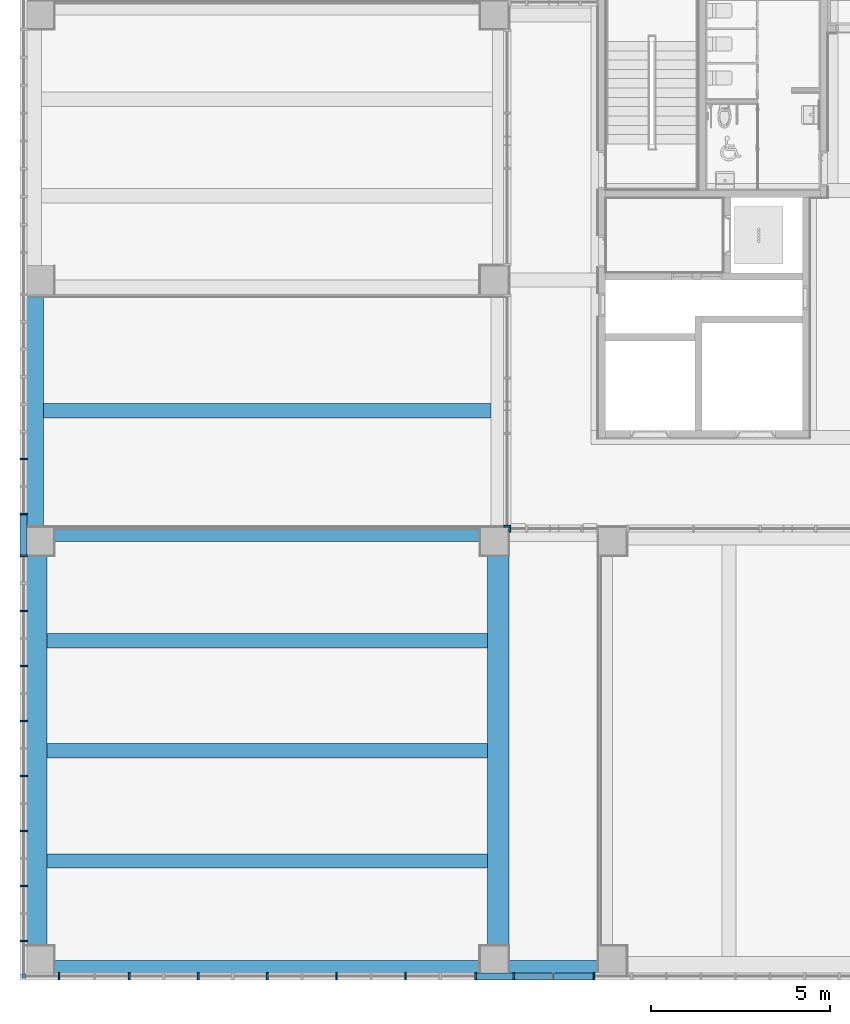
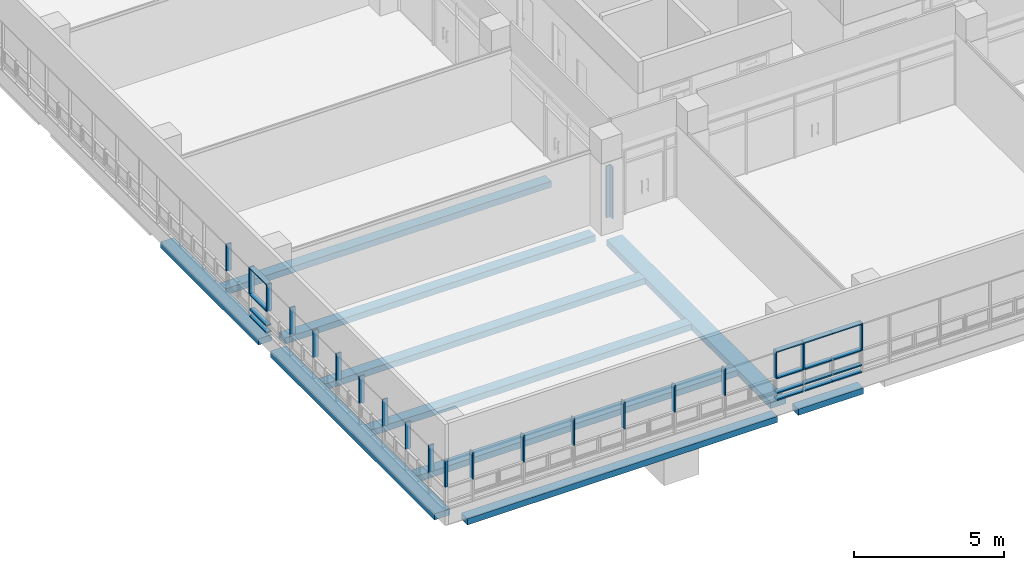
# One storey, part 2 of 82: 38 members, 10 beams, 4 elements without a shape of their own.
"""IFC2X3 building model written with IfcOpenShell, lengths in millimetres."""

from ifc_helpers import new_model, entity, si_unit, converted_unit, derived_unit, direction, frame, frame_2d, origin, origin_2d_with_axis, place, context, subcontext, project, spatial, rectangle, extrude, source, transform, mapped, material, type_object, type_shapes, element, aggregate, save


model = new_model("IFC2X3")

# Units and contexts
model_context = context("Model", 3, precision=0.01, world=origin(), true_north=direction((6.123031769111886e-17, 1.0)))
body_context = subcontext(model_context, "Body", "Model", "MODEL_VIEW")
ifc_project = project(units=[si_unit("LENGTHUNIT", "METRE", prefix="MILLI"), si_unit("AREAUNIT", "SQUARE_METRE"), si_unit("VOLUMEUNIT", "CUBIC_METRE"), converted_unit("PLANEANGLEUNIT", "DEGREE", entity("IfcRatioMeasure", 0.017453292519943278), si_unit("PLANEANGLEUNIT", "RADIAN"), dimensions=[0, 0, 0, 0, 0, 0, 0]), si_unit("MASSUNIT", "GRAM", prefix="KILO"), derived_unit("MASSDENSITYUNIT", [(si_unit("MASSUNIT", "GRAM", prefix="KILO"), 1), (si_unit("LENGTHUNIT", "METRE"), -3)]), derived_unit("MOMENTOFINERTIAUNIT", [(si_unit("LENGTHUNIT", "METRE"), 4)]), si_unit("TIMEUNIT", "SECOND"), si_unit("FREQUENCYUNIT", "HERTZ"), si_unit("THERMODYNAMICTEMPERATUREUNIT", "DEGREE_CELSIUS"), derived_unit("THERMALTRANSMITTANCEUNIT", [(si_unit("MASSUNIT", "GRAM", prefix="KILO"), 1), (si_unit("THERMODYNAMICTEMPERATUREUNIT", "KELVIN"), -1), (si_unit("TIMEUNIT", "SECOND"), -3)]), derived_unit("VOLUMETRICFLOWRATEUNIT", [(si_unit("LENGTHUNIT", "METRE"), 3), (si_unit("TIMEUNIT", "SECOND"), -1)]), derived_unit("MASSFLOWRATEUNIT", [(si_unit("MASSUNIT", "GRAM", prefix="KILO"), 1), (si_unit("TIMEUNIT", "SECOND"), -1)]), derived_unit("ROTATIONALFREQUENCYUNIT", [(si_unit("TIMEUNIT", "SECOND"), -1)]), si_unit("ELECTRICCURRENTUNIT", "AMPERE"), si_unit("ELECTRICVOLTAGEUNIT", "VOLT"), si_unit("POWERUNIT", "WATT"), si_unit("FORCEUNIT", "NEWTON", prefix="KILO"), si_unit("ILLUMINANCEUNIT", "LUX"), si_unit("LUMINOUSFLUXUNIT", "LUMEN"), si_unit("LUMINOUSINTENSITYUNIT", "CANDELA"), derived_unit("USERDEFINED", [(si_unit("MASSUNIT", "GRAM", prefix="KILO"), -1), (si_unit("LENGTHUNIT", "METRE"), -2), (si_unit("TIMEUNIT", "SECOND"), 3), (si_unit("LUMINOUSFLUXUNIT", "LUMEN"), 1)]), derived_unit("SOUNDPOWERUNIT", [(si_unit("MASSUNIT", "GRAM", prefix="KILO"), 1), (si_unit("LENGTHUNIT", "METRE"), 2), (si_unit("TIMEUNIT", "SECOND"), -3)]), derived_unit("SOUNDPRESSUREUNIT", [(si_unit("MASSUNIT", "GRAM", prefix="KILO"), 1), (si_unit("LENGTHUNIT", "METRE"), -1), (si_unit("TIMEUNIT", "SECOND"), -2)]), derived_unit("LINEARVELOCITYUNIT", [(si_unit("LENGTHUNIT", "METRE"), 1), (si_unit("TIMEUNIT", "SECOND"), -1)]), si_unit("PRESSUREUNIT", "PASCAL"), derived_unit("USERDEFINED", [(si_unit("LENGTHUNIT", "METRE"), -2), (si_unit("MASSUNIT", "GRAM", prefix="KILO"), 1), (si_unit("TIMEUNIT", "SECOND"), -2)]), derived_unit("LINEARFORCEUNIT", [(si_unit("MASSUNIT", "GRAM", prefix="KILO"), 1), (si_unit("LENGTHUNIT", "METRE"), 1), (si_unit("TIMEUNIT", "SECOND"), -2), (si_unit("LENGTHUNIT", "METRE"), -1)]), derived_unit("PLANARFORCEUNIT", [(si_unit("MASSUNIT", "GRAM", prefix="KILO"), 1), (si_unit("LENGTHUNIT", "METRE"), 1), (si_unit("TIMEUNIT", "SECOND"), -2), (si_unit("LENGTHUNIT", "METRE"), -2)])], contexts=[model_context])

# Site, building, storey
site_placement = place(None, frame((-14167.972527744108, -657.2125860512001, 0.0)))
site = spatial("IfcSite", under=ifc_project, at=site_placement, Name="Default", CompositionType="ELEMENT")
building_placement = place(site_placement, origin())
building = spatial("IfcBuilding", under=site, at=building_placement, Name="Sample Building", CompositionType="ELEMENT")
storey_placement = place(building_placement, frame((0.0, 0.0, 17500.0)))
storey = spatial("IfcBuildingStorey", under=building, at=storey_placement, Name="지상 5층", CompositionType="ELEMENT", Elevation=17500.00000000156)

# Curtain wall, member
curtain_wall_type = type_object("IfcCurtainWallType", Name="커튼월:CW112-스테인리스 스틸 커튼월", PredefinedType="NOTDEFINED")
curtain_wall_1_placement = place(storey_placement, frame((0.0, 0.0, -17500.0)))
curtain_wall_1 = element("IfcCurtainWall", 1, at=curtain_wall_1_placement, inside=storey, type_object=curtain_wall_type, Name="커튼월:CW112-스테인리스 스틸 커튼월", ObjectType="커튼월:CW112-스테인리스 스틸 커튼월")
ifc_material_1 = material(Name="<Unnamed>")
member_type_1 = type_object("IfcMemberType", Name="직사각형 멀리언:CW200-직사각형 멀리언 50x200mm", PredefinedType="MULLION", material=ifc_material_1)
shared_shape_1 = source(origin(), body_context, "Body", "SweptSolid", [
    extrude(rectangle(XDim=200.0, YDim=50.0, at=origin_2d_with_axis()), frame((-25.0, 0.0, -2100.0), z_axis=(0.0, 0.0, 1.0), x_axis=(0.0, -1.0, 0.0)), (0.0, 0.0, 1.0), 2100.0),
])
type_shapes(member_type_1, [shared_shape_1])
member_1_placement = place(curtain_wall_1_placement, frame((27522.920421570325, 13057.21230798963, 17580.0), z_axis=(0.0, 0.0, -1.0), x_axis=(0.0, -1.0, 0.0)))
member_1 = element("IfcMember", 2, at=member_1_placement, type_object=member_type_1, material=ifc_material_1, Name="직사각형 멀리언:CW200-직사각형 멀리언 50x200mm", ObjectType="직사각형 멀리언:CW200-직사각형 멀리언 50x200mm", context=body_context, shape_type="MappedRepresentation", body=[
    mapped(shared_shape_1, transform((0.0, 0.0, 0.0), scale=1.0)),
])
aggregate(curtain_wall_1, [member_1])

# Curtain wall, members
curtain_wall_2_placement = place(storey_placement, frame((0.0, 0.0, -17500.0)))
curtain_wall_2 = element("IfcCurtainWall", 3, at=curtain_wall_2_placement, inside=storey, type_object=curtain_wall_type, Name="커튼월:CW112-스테인리스 스틸 커튼월", ObjectType="커튼월:CW112-스테인리스 스틸 커튼월")
member_type_2 = type_object("IfcMemberType", Name="직사각형 멀리언:CW200-직사각형 멀리언 50x200mm", PredefinedType="MULLION", material=ifc_material_1)
shared_shape_2 = source(origin(), body_context, "Body", "SweptSolid", [
    extrude(rectangle(XDim=200.0, YDim=50.0, at=origin_2d_with_axis()), frame((-25.0, 0.0, -1120.0), z_axis=(0.0, 0.0, 1.0), x_axis=(0.0, -1.0, 0.0)), (0.0, 0.0, 1.0), 1120.0000000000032),
])
type_shapes(member_type_2, [shared_shape_2])
member_2_placement = place(curtain_wall_2_placement, frame((14017.339654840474, 12276.817707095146, 20100.0), z_axis=(0.0, -1.0, 0.0), x_axis=(0.0, 0.0, 1.0)))
member_2 = element("IfcMember", 4, at=member_2_placement, type_object=member_type_2, material=ifc_material_1, Name="직사각형 멀리언:CW200-직사각형 멀리언 50x200mm", ObjectType="직사각형 멀리언:CW200-직사각형 멀리언 50x200mm", context=body_context, shape_type="MappedRepresentation", body=[
    mapped(shared_shape_2, transform((0.0, 0.0, 0.0), scale=1.0)),
])
member_type_3 = type_object("IfcMemberType", Name="직사각형 멀리언:CW200-직사각형 멀리언 50x200mm", PredefinedType="MULLION", material=ifc_material_1)
shared_shape_3 = source(origin(), body_context, "Body", "SweptSolid", [
    extrude(rectangle(XDim=200.0, YDim=50.0, at=origin_2d_with_axis()), frame((-25.0, 0.0, -1120.0), z_axis=(0.0, 0.0, 1.0), x_axis=(0.0, -1.0, 0.0)), (0.0, 0.0, 1.0), 1120.0000000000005),
])
type_shapes(member_type_3, [shared_shape_3])
member_3_placement = place(curtain_wall_2_placement, frame((14017.339654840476, 13396.817707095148, 18100.0), z_axis=(0.0, 1.0, 0.0), x_axis=(0.0, 0.0, -1.0)))
member_3 = element("IfcMember", 5, at=member_3_placement, type_object=member_type_3, material=ifc_material_1, Name="직사각형 멀리언:CW200-직사각형 멀리언 50x200mm", ObjectType="직사각형 멀리언:CW200-직사각형 멀리언 50x200mm", context=body_context, shape_type="MappedRepresentation", body=[
    mapped(shared_shape_3, transform((0.0, 0.0, 0.0), scale=1.0)),
])
member_type_4 = type_object("IfcMemberType", Name="직사각형 멀리언:CW200-직사각형 멀리언 50x200mm", PredefinedType="MULLION", material=ifc_material_1)
shared_shape_4 = source(origin(), body_context, "Body", "SweptSolid", [
    extrude(rectangle(XDim=200.0, YDim=50.0, at=origin_2d_with_axis()), frame((0.0, 0.0, -1120.0), z_axis=(0.0, 0.0, 1.0), x_axis=(0.0, -1.0, 0.0)), (0.0, 0.0, 1.0), 1120.0000000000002),
])
type_shapes(member_type_4, [shared_shape_4])
member_4_placement = place(curtain_wall_2_placement, frame((14017.339654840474, 12276.817707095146, 18400.0), z_axis=(0.0, -1.0, 0.0), x_axis=(0.0, 0.0, 1.0)))
member_4 = element("IfcMember", 6, at=member_4_placement, type_object=member_type_4, material=ifc_material_1, Name="직사각형 멀리언:CW200-직사각형 멀리언 50x200mm", ObjectType="직사각형 멀리언:CW200-직사각형 멀리언 50x200mm", context=body_context, shape_type="MappedRepresentation", body=[
    mapped(shared_shape_4, transform((0.0, 0.0, 0.0), scale=1.0)),
])
member_5_placement = place(curtain_wall_2_placement, frame((14017.339654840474, 12276.817707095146, 19000.0), z_axis=(0.0, -1.0, 0.0), x_axis=(0.0, 0.0, 1.0)))
member_5 = element("IfcMember", 7, at=member_5_placement, type_object=member_type_4, material=ifc_material_1, Name="직사각형 멀리언:CW200-직사각형 멀리언 50x200mm", ObjectType="직사각형 멀리언:CW200-직사각형 멀리언 50x200mm", context=body_context, shape_type="MappedRepresentation", body=[
    mapped(shared_shape_4, transform((0.0, 0.0, 0.0), scale=1.0)),
])

# Curtain wall, member
curtain_wall_3_placement = place(storey_placement, frame((0.0, 0.0, -17500.0)))
curtain_wall_3 = element("IfcCurtainWall", 8, at=curtain_wall_3_placement, inside=storey, type_object=curtain_wall_type, Name="커튼월:CW112-스테인리스 스틸 커튼월", ObjectType="커튼월:CW112-스테인리스 스틸 커튼월")
member_type_5 = type_object("IfcMemberType", Name="직사각형 멀리언:CW200-직사각형 멀리언 50x200mm", PredefinedType="MULLION", material=ifc_material_1)
shared_shape_5 = source(origin(), body_context, "Body", "SweptSolid", [
    extrude(rectangle(XDim=200.0, YDim=50.0, at=origin_2d_with_axis()), frame((-25.0, 0.0, -2100.0), z_axis=(0.0, 0.0, 1.0), x_axis=(0.0, -1.0, 0.0)), (0.0, 0.0, 1.0), 2100.0),
])
type_shapes(member_type_5, [shared_shape_5])
member_6_placement = place(curtain_wall_3_placement, frame((27567.95510516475, 13012.212307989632, 17580.0), z_axis=(0.0, 0.0, -1.0), x_axis=(-1.0, 0.0, 0.0)))
member_6 = element("IfcMember", 9, at=member_6_placement, type_object=member_type_5, material=ifc_material_1, Name="직사각형 멀리언:CW200-직사각형 멀리언 50x200mm", ObjectType="직사각형 멀리언:CW200-직사각형 멀리언 50x200mm", context=body_context, shape_type="MappedRepresentation", body=[
    mapped(shared_shape_5, transform((0.0, 0.0, 0.0), scale=1.0)),
])
aggregate(curtain_wall_3, [member_6])

# Member
member_type_6 = type_object("IfcMemberType", Name="직사각형 멀리언:CW200-직사각형 멀리언 100 x 100mm", PredefinedType="MULLION", material=ifc_material_1)
shared_shape_6 = source(origin(), body_context, "Body", "SweptSolid", [
    extrude(rectangle(XDim=99.99999999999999, YDim=100.0, at=origin_2d_with_axis()), frame((-50.0, 0.0, -1100.0), z_axis=(0.0, 0.0, 1.0), x_axis=(0.0, -1.0, 0.0)), (0.0, 0.0, 1.0), 1099.9999999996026),
])
type_shapes(member_type_6, [shared_shape_6])
member_7_placement = place(curtain_wall_2_placement, frame((14017.339654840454, 457.18690471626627, 19000.0), z_axis=(0.0, 0.0, -1.0), x_axis=(0.0, -1.0, 0.0)))
member_7 = element("IfcMember", 10, at=member_7_placement, type_object=member_type_6, material=ifc_material_1, Name="직사각형 멀리언:CW200-직사각형 멀리언 100 x 100mm", ObjectType="직사각형 멀리언:CW200-직사각형 멀리언 100 x 100mm", context=body_context, shape_type="MappedRepresentation", body=[
    mapped(shared_shape_6, transform((0.0, 0.0, 0.0), scale=1.0)),
])

# Curtain wall, members
curtain_wall_4_placement = place(storey_placement, frame((0.0, 0.0, -17500.0)))
curtain_wall_4 = element("IfcCurtainWall", 11, at=curtain_wall_4_placement, inside=storey, type_object=curtain_wall_type, Name="커튼월:CW112-스테인리스 스틸 커튼월", ObjectType="커튼월:CW112-스테인리스 스틸 커튼월")
member_type_7 = type_object("IfcMemberType", Name="직사각형 멀리언:CW200-직사각형 멀리언 50x200mm", PredefinedType="MULLION", material=ifc_material_1)
shared_shape_7 = source(origin(), body_context, "Body", "SweptSolid", [
    extrude(rectangle(XDim=200.0, YDim=50.0, at=origin_2d_with_axis()), frame((0.0, 0.0, -1100.0), z_axis=(0.0, 0.0, 1.0), x_axis=(0.0, -1.0, 0.0)), (0.0, 0.0, 1.0), 1100.0000000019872),
])
type_shapes(member_type_7, [shared_shape_7])
member_8_placement = place(curtain_wall_4_placement, frame((15005.156070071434, 507.21229514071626, 19000.0), z_axis=(0.0, 0.0, -1.0), x_axis=(1.0, 0.0, 0.0)))
member_8 = element("IfcMember", 12, at=member_8_placement, type_object=member_type_7, material=ifc_material_1, Name="직사각형 멀리언:CW200-직사각형 멀리언 50x200mm", ObjectType="직사각형 멀리언:CW200-직사각형 멀리언 50x200mm", context=body_context, shape_type="MappedRepresentation", body=[
    mapped(shared_shape_7, transform((0.0, 0.0, 0.0), scale=1.0)),
])
member_9_placement = place(curtain_wall_4_placement, frame((16965.156070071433, 507.2122951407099, 19000.0), z_axis=(0.0, 0.0, -1.0), x_axis=(1.0, 0.0, 0.0)))
member_9 = element("IfcMember", 13, at=member_9_placement, type_object=member_type_7, material=ifc_material_1, Name="직사각형 멀리언:CW200-직사각형 멀리언 50x200mm", ObjectType="직사각형 멀리언:CW200-직사각형 멀리언 50x200mm", context=body_context, shape_type="MappedRepresentation", body=[
    mapped(shared_shape_7, transform((0.0, 0.0, 0.0), scale=1.0)),
])
member_10_placement = place(curtain_wall_4_placement, frame((18895.156070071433, 507.21229514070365, 19000.0), z_axis=(0.0, 0.0, -1.0), x_axis=(1.0, 0.0, 0.0)))
member_10 = element("IfcMember", 14, at=member_10_placement, type_object=member_type_7, material=ifc_material_1, Name="직사각형 멀리언:CW200-직사각형 멀리언 50x200mm", ObjectType="직사각형 멀리언:CW200-직사각형 멀리언 50x200mm", context=body_context, shape_type="MappedRepresentation", body=[
    mapped(shared_shape_7, transform((0.0, 0.0, 0.0), scale=1.0)),
])
member_11_placement = place(curtain_wall_4_placement, frame((20825.156070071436, 507.21229514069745, 19000.0), z_axis=(0.0, 0.0, -1.0), x_axis=(1.0, 0.0, 0.0)))
member_11 = element("IfcMember", 15, at=member_11_placement, type_object=member_type_7, material=ifc_material_1, Name="직사각형 멀리언:CW200-직사각형 멀리언 50x200mm", ObjectType="직사각형 멀리언:CW200-직사각형 멀리언 50x200mm", context=body_context, shape_type="MappedRepresentation", body=[
    mapped(shared_shape_7, transform((0.0, 0.0, 0.0), scale=1.0)),
])
member_12_placement = place(curtain_wall_4_placement, frame((22755.156070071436, 507.2122951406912, 19000.0), z_axis=(0.0, 0.0, -1.0), x_axis=(1.0, 0.0, 0.0)))
member_12 = element("IfcMember", 16, at=member_12_placement, type_object=member_type_7, material=ifc_material_1, Name="직사각형 멀리언:CW200-직사각형 멀리언 50x200mm", ObjectType="직사각형 멀리언:CW200-직사각형 멀리언 50x200mm", context=body_context, shape_type="MappedRepresentation", body=[
    mapped(shared_shape_7, transform((0.0, 0.0, 0.0), scale=1.0)),
])
member_13_placement = place(curtain_wall_4_placement, frame((24685.15607007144, 507.212295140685, 19000.0), z_axis=(0.0, 0.0, -1.0), x_axis=(1.0, 0.0, 0.0)))
member_13 = element("IfcMember", 17, at=member_13_placement, type_object=member_type_7, material=ifc_material_1, Name="직사각형 멀리언:CW200-직사각형 멀리언 50x200mm", ObjectType="직사각형 멀리언:CW200-직사각형 멀리언 50x200mm", context=body_context, shape_type="MappedRepresentation", body=[
    mapped(shared_shape_7, transform((0.0, 0.0, 0.0), scale=1.0)),
])
member_14_placement = place(curtain_wall_4_placement, frame((26645.156070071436, 507.21229514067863, 19000.0), z_axis=(0.0, 0.0, -1.0), x_axis=(1.0, 0.0, 0.0)))
member_14 = element("IfcMember", 18, at=member_14_placement, type_object=member_type_7, material=ifc_material_1, Name="직사각형 멀리언:CW200-직사각형 멀리언 50x200mm", ObjectType="직사각형 멀리언:CW200-직사각형 멀리언 50x200mm", context=body_context, shape_type="MappedRepresentation", body=[
    mapped(shared_shape_7, transform((0.0, 0.0, 0.0), scale=1.0)),
])
member_15_placement = place(curtain_wall_4_placement, frame((27705.156070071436, 507.2122951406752, 19000.0), z_axis=(0.0, 0.0, -1.0), x_axis=(1.0, 0.0, 0.0)))
member_15 = element("IfcMember", 19, at=member_15_placement, type_object=member_type_7, material=ifc_material_1, Name="직사각형 멀리언:CW200-직사각형 멀리언 50x200mm", ObjectType="직사각형 멀리언:CW200-직사각형 멀리언 50x200mm", context=body_context, shape_type="MappedRepresentation", body=[
    mapped(shared_shape_7, transform((0.0, 0.0, 0.0), scale=1.0)),
])
member_16_placement = place(curtain_wall_4_placement, frame((29945.15607007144, 507.212295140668, 19000.0), z_axis=(0.0, 0.0, -1.0), x_axis=(1.0, 0.0, 0.0)))
member_16 = element("IfcMember", 20, at=member_16_placement, type_object=member_type_7, material=ifc_material_1, Name="직사각형 멀리언:CW200-직사각형 멀리언 50x200mm", ObjectType="직사각형 멀리언:CW200-직사각형 멀리언 50x200mm", context=body_context, shape_type="MappedRepresentation", body=[
    mapped(shared_shape_7, transform((0.0, 0.0, 0.0), scale=1.0)),
])

# Member
member_17_placement = place(curtain_wall_2_placement, frame((14017.33965484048, 14954.817707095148, 19000.0), z_axis=(0.0, 0.0, -1.0), x_axis=(0.0, -1.0, 0.0)))
member_17 = element("IfcMember", 21, at=member_17_placement, type_object=member_type_7, material=ifc_material_1, Name="직사각형 멀리언:CW200-직사각형 멀리언 50x200mm", ObjectType="직사각형 멀리언:CW200-직사각형 멀리언 50x200mm", context=body_context, shape_type="MappedRepresentation", body=[
    mapped(shared_shape_7, transform((0.0, 0.0, 0.0), scale=1.0)),
])

member_18_placement = place(curtain_wall_2_placement, frame((14017.339654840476, 13421.817707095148, 19000.0), z_axis=(0.0, 0.0, -1.0), x_axis=(0.0, -1.0, 0.0)))
member_18 = element("IfcMember", 22, at=member_18_placement, type_object=member_type_7, material=ifc_material_1, Name="직사각형 멀리언:CW200-직사각형 멀리언 50x200mm", ObjectType="직사각형 멀리언:CW200-직사각형 멀리언 50x200mm", context=body_context, shape_type="MappedRepresentation", body=[
    mapped(shared_shape_7, transform((0.0, 0.0, 0.0), scale=1.0)),
])

member_19_placement = place(curtain_wall_2_placement, frame((14017.339654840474, 12251.817707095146, 19000.0), z_axis=(0.0, 0.0, -1.0), x_axis=(0.0, -1.0, 0.0)))
member_19 = element("IfcMember", 23, at=member_19_placement, type_object=member_type_7, material=ifc_material_1, Name="직사각형 멀리언:CW200-직사각형 멀리언 50x200mm", ObjectType="직사각형 멀리언:CW200-직사각형 멀리언 50x200mm", context=body_context, shape_type="MappedRepresentation", body=[
    mapped(shared_shape_7, transform((0.0, 0.0, 0.0), scale=1.0)),
])

member_20_placement = place(curtain_wall_2_placement, frame((14017.339654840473, 10715.103421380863, 19000.0), z_axis=(0.0, 0.0, -1.0), x_axis=(0.0, -1.0, 0.0)))
member_20 = element("IfcMember", 24, at=member_20_placement, type_object=member_type_7, material=ifc_material_1, Name="직사각형 멀리언:CW200-직사각형 멀리언 50x200mm", ObjectType="직사각형 멀리언:CW200-직사각형 멀리언 50x200mm", context=body_context, shape_type="MappedRepresentation", body=[
    mapped(shared_shape_7, transform((0.0, 0.0, 0.0), scale=1.0)),
])

member_21_placement = place(curtain_wall_2_placement, frame((14017.339654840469, 9178.38913566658, 19000.0), z_axis=(0.0, 0.0, -1.0), x_axis=(0.0, -1.0, 0.0)))
member_21 = element("IfcMember", 25, at=member_21_placement, type_object=member_type_7, material=ifc_material_1, Name="직사각형 멀리언:CW200-직사각형 멀리언 50x200mm", ObjectType="직사각형 멀리언:CW200-직사각형 멀리언 50x200mm", context=body_context, shape_type="MappedRepresentation", body=[
    mapped(shared_shape_7, transform((0.0, 0.0, 0.0), scale=1.0)),
])

member_22_placement = place(curtain_wall_2_placement, frame((14017.339654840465, 7641.674849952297, 19000.0), z_axis=(0.0, 0.0, -1.0), x_axis=(0.0, -1.0, 0.0)))
member_22 = element("IfcMember", 26, at=member_22_placement, type_object=member_type_7, material=ifc_material_1, Name="직사각형 멀리언:CW200-직사각형 멀리언 50x200mm", ObjectType="직사각형 멀리언:CW200-직사각형 멀리언 50x200mm", context=body_context, shape_type="MappedRepresentation", body=[
    mapped(shared_shape_7, transform((0.0, 0.0, 0.0), scale=1.0)),
])

member_23_placement = place(curtain_wall_2_placement, frame((14017.339654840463, 6104.960564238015, 19000.0), z_axis=(0.0, 0.0, -1.0), x_axis=(0.0, -1.0, 0.0)))
member_23 = element("IfcMember", 27, at=member_23_placement, type_object=member_type_7, material=ifc_material_1, Name="직사각형 멀리언:CW200-직사각형 멀리언 50x200mm", ObjectType="직사각형 멀리언:CW200-직사각형 멀리언 50x200mm", context=body_context, shape_type="MappedRepresentation", body=[
    mapped(shared_shape_7, transform((0.0, 0.0, 0.0), scale=1.0)),
])

member_24_placement = place(curtain_wall_2_placement, frame((14017.339654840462, 4568.246278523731, 19000.0), z_axis=(0.0, 0.0, -1.0), x_axis=(0.0, -1.0, 0.0)))
member_24 = element("IfcMember", 28, at=member_24_placement, type_object=member_type_7, material=ifc_material_1, Name="직사각형 멀리언:CW200-직사각형 멀리언 50x200mm", ObjectType="직사각형 멀리언:CW200-직사각형 멀리언 50x200mm", context=body_context, shape_type="MappedRepresentation", body=[
    mapped(shared_shape_7, transform((0.0, 0.0, 0.0), scale=1.0)),
])

member_25_placement = place(curtain_wall_2_placement, frame((14017.33965484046, 3031.531992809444, 19000.0), z_axis=(0.0, 0.0, -1.0), x_axis=(0.0, -1.0, 0.0)))
member_25 = element("IfcMember", 29, at=member_25_placement, type_object=member_type_7, material=ifc_material_1, Name="직사각형 멀리언:CW200-직사각형 멀리언 50x200mm", ObjectType="직사각형 멀리언:CW200-직사각형 멀리언 50x200mm", context=body_context, shape_type="MappedRepresentation", body=[
    mapped(shared_shape_7, transform((0.0, 0.0, 0.0), scale=1.0)),
])

member_26_placement = place(curtain_wall_2_placement, frame((14017.339654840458, 1494.817707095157, 19000.0), z_axis=(0.0, 0.0, -1.0), x_axis=(0.0, -1.0, 0.0)))
member_26 = element("IfcMember", 30, at=member_26_placement, type_object=member_type_7, material=ifc_material_1, Name="직사각형 멀리언:CW200-직사각형 멀리언 50x200mm", ObjectType="직사각형 멀리언:CW200-직사각형 멀리언 50x200mm", context=body_context, shape_type="MappedRepresentation", body=[
    mapped(shared_shape_7, transform((0.0, 0.0, 0.0), scale=1.0)),
])

aggregate(curtain_wall_2, [member_7, member_17, member_3, member_4, member_5, member_18, member_2, member_19, member_20, member_21, member_22, member_23, member_24, member_25, member_26])

member_type_8 = type_object("IfcMemberType", Name="직사각형 멀리언:CW200-직사각형 멀리언 50x200mm", PredefinedType="MULLION", material=ifc_material_1)
shared_shape_8 = source(origin(), body_context, "Body", "SweptSolid", [
    extrude(rectangle(XDim=200.0, YDim=50.0, at=origin_2d_with_axis()), frame((-25.0, 0.0, -1010.0), z_axis=(0.0, 0.0, 1.0), x_axis=(0.0, -1.0, 0.0)), (0.0, 0.0, 1.0), 1009.9999999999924),
])
type_shapes(member_type_8, [shared_shape_8])
member_27_placement = place(curtain_wall_4_placement, frame((26670.156070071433, 507.2122951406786, 18100.0), z_axis=(-1.0, 0.0, 0.0), x_axis=(0.0, 0.0, -1.0)))
member_27 = element("IfcMember", 31, at=member_27_placement, type_object=member_type_8, material=ifc_material_1, Name="직사각형 멀리언:CW200-직사각형 멀리언 50x200mm", ObjectType="직사각형 멀리언:CW200-직사각형 멀리언 50x200mm", context=body_context, shape_type="MappedRepresentation", body=[
    mapped(shared_shape_8, transform((0.0, 0.0, 0.0), scale=1.0)),
])

member_type_9 = type_object("IfcMemberType", Name="직사각형 멀리언:CW200-직사각형 멀리언 50x200mm", PredefinedType="MULLION", material=ifc_material_1)
shared_shape_9 = source(origin(), body_context, "Body", "SweptSolid", [
    extrude(rectangle(XDim=200.0, YDim=50.0, at=origin_2d_with_axis()), frame((0.0, 0.0, -1010.0), z_axis=(0.0, 0.0, 1.0), x_axis=(0.0, -1.0, 0.0)), (0.0, 0.0, 1.0), 1009.9999999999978),
])
type_shapes(member_type_9, [shared_shape_9])
member_28_placement = place(curtain_wall_4_placement, frame((27680.15607007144, 507.21229514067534, 18400.0), z_axis=(1.0, 0.0, 0.0), x_axis=(0.0, 0.0, 1.0)))
member_28 = element("IfcMember", 32, at=member_28_placement, type_object=member_type_9, material=ifc_material_1, Name="직사각형 멀리언:CW200-직사각형 멀리언 50x200mm", ObjectType="직사각형 멀리언:CW200-직사각형 멀리언 50x200mm", context=body_context, shape_type="MappedRepresentation", body=[
    mapped(shared_shape_9, transform((0.0, 0.0, 0.0), scale=1.0)),
])

member_29_placement = place(curtain_wall_4_placement, frame((27680.15607007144, 507.21229514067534, 19000.0), z_axis=(1.0, 0.0, 0.0), x_axis=(0.0, 0.0, 1.0)))
member_29 = element("IfcMember", 33, at=member_29_placement, type_object=member_type_9, material=ifc_material_1, Name="직사각형 멀리언:CW200-직사각형 멀리언 50x200mm", ObjectType="직사각형 멀리언:CW200-직사각형 멀리언 50x200mm", context=body_context, shape_type="MappedRepresentation", body=[
    mapped(shared_shape_9, transform((0.0, 0.0, 0.0), scale=1.0)),
])

member_type_10 = type_object("IfcMemberType", Name="직사각형 멀리언:CW200-직사각형 멀리언 50x200mm", PredefinedType="MULLION", material=ifc_material_1)
shared_shape_10 = source(origin(), body_context, "Body", "SweptSolid", [
    extrude(rectangle(XDim=200.0, YDim=50.0, at=origin_2d_with_axis()), frame((-25.0, 0.0, -1010.0), z_axis=(0.0, 0.0, 1.0), x_axis=(0.0, -1.0, 0.0)), (0.0, 0.0, 1.0), 1009.9999999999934),
])
type_shapes(member_type_10, [shared_shape_10])
member_30_placement = place(curtain_wall_4_placement, frame((27680.15607007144, 507.21229514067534, 20100.0), z_axis=(1.0, 0.0, 0.0), x_axis=(0.0, 0.0, 1.0)))
member_30 = element("IfcMember", 34, at=member_30_placement, type_object=member_type_10, material=ifc_material_1, Name="직사각형 멀리언:CW200-직사각형 멀리언 50x200mm", ObjectType="직사각형 멀리언:CW200-직사각형 멀리언 50x200mm", context=body_context, shape_type="MappedRepresentation", body=[
    mapped(shared_shape_10, transform((0.0, 0.0, 0.0), scale=1.0)),
])

member_type_11 = type_object("IfcMemberType", Name="직사각형 멀리언:CW200-직사각형 멀리언 50x200mm", PredefinedType="MULLION", material=ifc_material_1)
shared_shape_11 = source(origin(), body_context, "Body", "SweptSolid", [
    extrude(rectangle(XDim=200.0, YDim=50.0, at=origin_2d_with_axis()), frame((-25.0, 0.0, -1080.0), z_axis=(0.0, 0.0, 1.0), x_axis=(0.0, -1.0, 0.0)), (0.0, 0.0, 1.0), 1079.999999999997),
])
type_shapes(member_type_11, [shared_shape_11])
member_31_placement = place(curtain_wall_4_placement, frame((27730.156070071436, 507.21229514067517, 18100.0), z_axis=(-1.0, 0.0, 0.0), x_axis=(0.0, 0.0, -1.0)))
member_31 = element("IfcMember", 35, at=member_31_placement, type_object=member_type_11, material=ifc_material_1, Name="직사각형 멀리언:CW200-직사각형 멀리언 50x200mm", ObjectType="직사각형 멀리언:CW200-직사각형 멀리언 50x200mm", context=body_context, shape_type="MappedRepresentation", body=[
    mapped(shared_shape_11, transform((0.0, 0.0, 0.0), scale=1.0)),
])

member_type_12 = type_object("IfcMemberType", Name="직사각형 멀리언:CW200-직사각형 멀리언 50x200mm", PredefinedType="MULLION", material=ifc_material_1)
shared_shape_12 = source(origin(), body_context, "Body", "SweptSolid", [
    extrude(rectangle(XDim=200.0, YDim=50.0, at=origin_2d_with_axis()), frame((0.0, 0.0, -1055.0), z_axis=(0.0, 0.0, 1.0), x_axis=(0.0, -1.0, 0.0)), (0.0, 0.0, 1.0), 1055.0000000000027),
])
type_shapes(member_type_12, [shared_shape_12])
member_32_placement = place(curtain_wall_4_placement, frame((28785.15607007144, 507.2122951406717, 18400.0), z_axis=(1.0, 0.0, 0.0), x_axis=(0.0, 0.0, 1.0)))
member_32 = element("IfcMember", 36, at=member_32_placement, type_object=member_type_12, material=ifc_material_1, Name="직사각형 멀리언:CW200-직사각형 멀리언 50x200mm", ObjectType="직사각형 멀리언:CW200-직사각형 멀리언 50x200mm", context=body_context, shape_type="MappedRepresentation", body=[
    mapped(shared_shape_12, transform((0.0, 0.0, 0.0), scale=1.0)),
])

member_33_placement = place(curtain_wall_4_placement, frame((28785.15607007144, 507.2122951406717, 19000.0), z_axis=(1.0, 0.0, 0.0), x_axis=(0.0, 0.0, 1.0)))
member_33 = element("IfcMember", 37, at=member_33_placement, type_object=member_type_12, material=ifc_material_1, Name="직사각형 멀리언:CW200-직사각형 멀리언 50x200mm", ObjectType="직사각형 멀리언:CW200-직사각형 멀리언 50x200mm", context=body_context, shape_type="MappedRepresentation", body=[
    mapped(shared_shape_12, transform((0.0, 0.0, 0.0), scale=1.0)),
])

member_type_13 = type_object("IfcMemberType", Name="직사각형 멀리언:CW200-직사각형 멀리언 50x200mm", PredefinedType="MULLION", material=ifc_material_1)
shared_shape_13 = source(origin(), body_context, "Body", "SweptSolid", [
    extrude(rectangle(XDim=200.0, YDim=50.0, at=origin_2d_with_axis()), frame((-25.0, 0.0, -1110.0), z_axis=(0.0, 0.0, 1.0), x_axis=(0.0, -1.0, 0.0)), (0.0, 0.0, 1.0), 1109.9999999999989),
])
type_shapes(member_type_13, [shared_shape_13])
member_34_placement = place(curtain_wall_4_placement, frame((29920.15607007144, 507.21229514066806, 20100.0), z_axis=(1.0, 0.0, 0.0), x_axis=(0.0, 0.0, 1.0)))
member_34 = element("IfcMember", 38, at=member_34_placement, type_object=member_type_13, material=ifc_material_1, Name="직사각형 멀리언:CW200-직사각형 멀리언 50x200mm", ObjectType="직사각형 멀리언:CW200-직사각형 멀리언 50x200mm", context=body_context, shape_type="MappedRepresentation", body=[
    mapped(shared_shape_13, transform((0.0, 0.0, 0.0), scale=1.0)),
])

member_type_14 = type_object("IfcMemberType", Name="직사각형 멀리언:CW200-직사각형 멀리언 50x200mm", PredefinedType="MULLION", material=ifc_material_1)
shared_shape_14 = source(origin(), body_context, "Body", "SweptSolid", [
    extrude(rectangle(XDim=200.0, YDim=50.0, at=origin_2d_with_axis()), frame((-25.0, 0.0, -1110.0), z_axis=(0.0, 0.0, 1.0), x_axis=(0.0, -1.0, 0.0)), (0.0, 0.0, 1.0), 1109.9999999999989),
])
type_shapes(member_type_14, [shared_shape_14])
member_35_placement = place(curtain_wall_4_placement, frame((28810.156070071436, 507.21229514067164, 18100.0), z_axis=(-1.0, 0.0, 0.0), x_axis=(0.0, 0.0, -1.0)))
member_35 = element("IfcMember", 39, at=member_35_placement, type_object=member_type_14, material=ifc_material_1, Name="직사각형 멀리언:CW200-직사각형 멀리언 50x200mm", ObjectType="직사각형 멀리언:CW200-직사각형 멀리언 50x200mm", context=body_context, shape_type="MappedRepresentation", body=[
    mapped(shared_shape_14, transform((0.0, 0.0, 0.0), scale=1.0)),
])

member_type_15 = type_object("IfcMemberType", Name="직사각형 멀리언:CW200-직사각형 멀리언 50x200mm", PredefinedType="MULLION", material=ifc_material_1)
shared_shape_15 = source(origin(), body_context, "Body", "SweptSolid", [
    extrude(rectangle(XDim=200.0, YDim=50.0, at=origin_2d_with_axis()), frame((0.0, 0.0, -1085.0156546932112), z_axis=(0.0, 0.0, 1.0), x_axis=(0.0, -1.0, 0.0)), (0.0, 0.0, 1.0), 1085.0156546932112),
])
type_shapes(member_type_15, [shared_shape_15])
member_36_placement = place(curtain_wall_4_placement, frame((29920.15607007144, 507.21229514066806, 18400.0), z_axis=(1.0, 0.0, 0.0), x_axis=(0.0, 0.0, 1.0)))
member_36 = element("IfcMember", 40, at=member_36_placement, type_object=member_type_15, material=ifc_material_1, Name="직사각형 멀리언:CW200-직사각형 멀리언 50x200mm", ObjectType="직사각형 멀리언:CW200-직사각형 멀리언 50x200mm", context=body_context, shape_type="MappedRepresentation", body=[
    mapped(shared_shape_15, transform((0.0, 0.0, 0.0), scale=1.0)),
])

member_37_placement = place(curtain_wall_4_placement, frame((29920.15607007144, 507.21229514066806, 19000.0), z_axis=(1.0, 0.0, 0.0), x_axis=(0.0, 0.0, 1.0)))
member_37 = element("IfcMember", 41, at=member_37_placement, type_object=member_type_15, material=ifc_material_1, Name="직사각형 멀리언:CW200-직사각형 멀리언 50x200mm", ObjectType="직사각형 멀리언:CW200-직사각형 멀리언 50x200mm", context=body_context, shape_type="MappedRepresentation", body=[
    mapped(shared_shape_15, transform((0.0, 0.0, 0.0), scale=1.0)),
])

member_type_16 = type_object("IfcMemberType", Name="직사각형 멀리언:CW200-직사각형 멀리언 50x200mm", PredefinedType="MULLION", material=ifc_material_1)
shared_shape_16 = source(origin(), body_context, "Body", "SweptSolid", [
    extrude(rectangle(XDim=200.0, YDim=50.0, at=origin_2d_with_axis()), frame((-25.0, 0.0, -1080.0), z_axis=(0.0, 0.0, 1.0), x_axis=(0.0, -1.0, 0.0)), (0.0, 0.0, 1.0), 1080.0000000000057),
])
type_shapes(member_type_16, [shared_shape_16])
member_38_placement = place(curtain_wall_4_placement, frame((28810.156070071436, 507.21229514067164, 20100.0), z_axis=(1.0, 0.0, 0.0), x_axis=(0.0, 0.0, 1.0)))
member_38 = element("IfcMember", 42, at=member_38_placement, type_object=member_type_16, material=ifc_material_1, Name="직사각형 멀리언:CW200-직사각형 멀리언 50x200mm", ObjectType="직사각형 멀리언:CW200-직사각형 멀리언 50x200mm", context=body_context, shape_type="MappedRepresentation", body=[
    mapped(shared_shape_16, transform((0.0, 0.0, 0.0), scale=1.0)),
])

aggregate(curtain_wall_4, [member_8, member_9, member_10, member_11, member_12, member_13, member_27, member_28, member_29, member_14, member_30, member_31, member_32, member_33, member_15, member_34, member_16, member_35, member_36, member_37, member_38])

# Beams
ifc_material_2 = material(Name="KBIMS-콘크리트")
beam_type_1 = type_object("IfcBeamType", Name="BM111-철근콘크리트구조 보:BM110-철근 콘크리트구조 보_400 x 400_2-10G7", PredefinedType="NOTDEFINED")
beam_1_placement = place(storey_placement, frame((27267.955221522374, 757.2126041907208, 0.0), z_axis=(0.0, 0.0, 1.0), x_axis=(-1.0, 0.0, 0.0)))
element("IfcBeam", 43, at=beam_1_placement, inside=storey, type_object=beam_type_1, material=ifc_material_2, Name="BM111-철근콘크리트구조 보:BM110-철근 콘크리트구조 보_400 x 400_2-10G7", ObjectType="BM111-철근콘크리트구조 보:BM110-철근 콘크리트구조 보_400 x 400_2-10G7", context=body_context, shape_type="SweptSolid", body=[
    extrude(rectangle(XDim=250.00000000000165, YDim=400.000000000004, at=frame_2d((-1.0800249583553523e-12, -4.405364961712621e-13), x_axis=(1.0, 0.0))), frame((500.00007974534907, 0.0, -275.0), z_axis=(1.0, 0.0, 0.0), x_axis=(0.0, 0.0, -1.0)), (0.0, 0.0, 1.0), 11900.000036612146),
])
beam_2_placement = place(storey_placement, frame((27317.963914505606, 12857.212478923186, 0.0), z_axis=(0.0, 0.0, 1.0), x_axis=(-1.0, 0.0, 0.0)))
element("IfcBeam", 44, at=beam_2_placement, inside=storey, type_object=beam_type_1, material=ifc_material_2, Name="BM111-철근콘크리트구조 보:BM110-철근 콘크리트구조 보_400 x 400_2-10G7", ObjectType="BM111-철근콘크리트구조 보:BM110-철근 콘크리트구조 보_400 x 400_2-10G7", context=body_context, shape_type="SweptSolid", body=[
    extrude(rectangle(XDim=250.00000000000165, YDim=400.0000000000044, at=frame_2d((-1.0800249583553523e-12, 0.0), x_axis=(1.0, 0.0))), frame((550.0087727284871, 0.0, -275.0), z_axis=(1.0, 0.0, 0.0), x_axis=(0.0, 0.0, -1.0)), (0.0, 0.0, 1.0), 11900.00003661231),
])
beam_type_2 = type_object("IfcBeamType", Name="BM111-철근콘크리트구조 보:BM110-철근 콘크리트구조 보_400 x 400_2-10G8", PredefinedType="NOTDEFINED")
beam_3_placement = place(storey_placement, frame((30267.946448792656, 757.2126041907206, 0.0), z_axis=(0.0, 0.0, 1.0), x_axis=(-1.0, 0.0, 0.0)))
element("IfcBeam", 45, at=beam_3_placement, inside=storey, type_object=beam_type_2, material=ifc_material_2, Name="BM111-철근콘크리트구조 보:BM110-철근 콘크리트구조 보_400 x 400_2-10G8", ObjectType="BM111-철근콘크리트구조 보:BM110-철근 콘크리트구조 보_400 x 400_2-10G8", context=body_context, shape_type="SweptSolid", body=[
    extrude(rectangle(XDim=250.00000000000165, YDim=400.00000000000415, at=frame_2d((-1.0800249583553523e-12, -5.115907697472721e-13), x_axis=(1.0, 0.0))), frame((199.9913344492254, 0.0, -275.0), z_axis=(1.0, 0.0, 0.0), x_axis=(0.0, 0.0, -1.0)), (0.0, 0.0, 1.0), 2499.999972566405),
])
beam_type_3 = type_object("IfcBeamType", Name="BM111-철근콘크리트구조 보:BM110-철근 콘크리트구조 보_400 x 400_2-10B3", PredefinedType="NOTDEFINED")
beam_4_placement = place(storey_placement, frame((27267.955221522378, 3732.212478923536, 0.0), z_axis=(0.0, 0.0, 1.0), x_axis=(-1.0, 0.0, 0.0)))
element("IfcBeam", 46, at=beam_4_placement, inside=storey, type_object=beam_type_3, material=ifc_material_2, Name="BM111-철근콘크리트구조 보:BM110-철근 콘크리트구조 보_400 x 400_2-10B3", ObjectType="BM111-철근콘크리트구조 보:BM110-철근 콘크리트구조 보_400 x 400_2-10B3", context=body_context, shape_type="SweptSolid", body=[
    extrude(rectangle(XDim=250.00000000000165, YDim=400.0000000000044, at=frame_2d((-1.0800249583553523e-12, -5.400124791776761e-13), x_axis=(1.0, 0.0))), frame((300.0, 0.0, -275.0), z_axis=(1.0, 0.0, 0.0), x_axis=(0.0, 0.0, -1.0)), (0.0, 0.0, 1.0), 12300.00011635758),
])
beam_5_placement = place(storey_placement, frame((14317.95510516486, 16307.247783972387, 0.0)))
element("IfcBeam", 47, at=beam_5_placement, inside=storey, type_object=beam_type_3, material=ifc_material_2, Name="BM111-철근콘크리트구조 보:BM110-철근 콘크리트구조 보_400 x 400_2-10B3", ObjectType="BM111-철근콘크리트구조 보:BM110-철근 콘크리트구조 보_400 x 400_2-10B3", context=body_context, shape_type="SweptSolid", body=[
    extrude(rectangle(XDim=250.00000000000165, YDim=400.0000000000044, at=frame_2d((-1.0800249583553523e-12, 0.0), x_axis=(1.0, 0.0))), frame((250.0, 0.0, -275.0), z_axis=(1.0, 0.0, 0.0), x_axis=(0.0, 0.0, -1.0)), (0.0, 0.0, 1.0), 12500.008809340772),
])
for number, where, z_axis, x_axis in (
    (48, (27267.95522152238, 6807.212478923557, 0.0), (0.0, 0.0, 1.0), (-1.0, 0.0, 0.0)),
    (49, (27267.955221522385, 9882.212478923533, 0.0), (0.0, 0.0, 1.0), (-1.0, 0.0, 0.0)),
):
    element("IfcBeam", number, at=place(storey_placement, frame(where, z_axis=z_axis, x_axis=x_axis)), inside=storey, type_object=beam_type_3, material=ifc_material_2, Name="BM111-철근콘크리트구조 보:BM110-철근 콘크리트구조 보_400 x 400_2-10B3", ObjectType="BM111-철근콘크리트구조 보:BM110-철근 콘크리트구조 보_400 x 400_2-10B3", context=body_context, shape_type="SweptSolid", body=[
        extrude(rectangle(XDim=250.00000000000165, YDim=400.0000000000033, at=frame_2d((-1.0800249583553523e-12, -5.400124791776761e-13), x_axis=(1.0, 0.0))), frame((300.0, 0.0, -275.0), z_axis=(1.0, 0.0, 0.0), x_axis=(0.0, 0.0, -1.0)), (0.0, 0.0, 1.0), 12300.00011635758),
    ])
beam_type_4 = type_object("IfcBeamType", Name="BM111-철근콘크리트구조 보:BM110-철근 콘크리트구조 보_600 x 400_2-10G12", PredefinedType="NOTDEFINED")
beam_6_placement = place(storey_placement, frame((14367.955105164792, 12857.212478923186, 0.0), z_axis=(0.0, 0.0, 1.0), x_axis=(0.0, -1.0, 0.0)))
element("IfcBeam", 50, at=beam_6_placement, inside=storey, type_object=beam_type_4, material=ifc_material_2, Name="BM111-철근콘크리트구조 보:BM110-철근 콘크리트구조 보_600 x 400_2-10G12", ObjectType="BM111-철근콘크리트구조 보:BM110-철근 콘크리트구조 보_600 x 400_2-10G12", context=body_context, shape_type="SweptSolid", body=[
    extrude(rectangle(XDim=250.00000000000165, YDim=600.0000000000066, at=frame_2d((-1.0800249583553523e-12, -2.1884716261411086e-12), x_axis=(1.0, 0.0))), frame((599.9998618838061, 0.0, -275.0), z_axis=(1.0, 0.0, 0.0), x_axis=(0.0, 0.0, -1.0)), (0.0, 0.0, 1.0), 10900.000421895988),
])
beam_7_placement = place(storey_placement, frame((27267.955221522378, 12607.212617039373, 0.0), z_axis=(0.0, 0.0, 1.0), x_axis=(0.0, -1.0, 0.0)))
element("IfcBeam", 51, at=beam_7_placement, inside=storey, type_object=beam_type_4, material=ifc_material_2, Name="BM111-철근콘크리트구조 보:BM110-철근 콘크리트구조 보_600 x 400_2-10G12", ObjectType="BM111-철근콘크리트구조 보:BM110-철근 콘크리트구조 보_600 x 400_2-10G12", context=body_context, shape_type="SweptSolid", body=[
    extrude(rectangle(XDim=250.00000000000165, YDim=600.0000000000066, at=frame_2d((-1.0800249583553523e-12, -2.1884716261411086e-12), x_axis=(1.0, 0.0))), frame((350.0, 0.0, -275.0), z_axis=(1.0, 0.0, 0.0), x_axis=(0.0, 0.0, -1.0)), (0.0, 0.0, 1.0), 10900.000421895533),
])
beam_type_5 = type_object("IfcBeamType", Name="BM111-철근콘크리트구조 보:BM110-철근 콘크리트구조 보_500 x 400_2-10G11", PredefinedType="NOTDEFINED")
beam_8_placement = place(storey_placement, frame((14317.955105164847, 12857.212478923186, 0.0), z_axis=(0.0, 0.0, 1.0), x_axis=(0.0, 1.0, 0.0)))
element("IfcBeam", 52, at=beam_8_placement, inside=storey, type_object=beam_type_5, material=ifc_material_2, Name="BM111-철근콘크리트구조 보:BM110-철근 콘크리트구조 보_500 x 400_2-10G11", ObjectType="BM111-철근콘크리트구조 보:BM110-철근 콘크리트구조 보_500 x 400_2-10G11", context=body_context, shape_type="SweptSolid", body=[
    extrude(rectangle(XDim=250.00000000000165, YDim=500.0000000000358, at=frame_2d((-1.0871303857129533e-12, -2.383160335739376e-11), x_axis=(1.0, 0.0))), frame((200.00013811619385, 0.0, -275.0), z_axis=(1.0, 0.0, 0.0), x_axis=(0.0, 0.0, -1.0)), (0.0, 0.0, 1.0), 6500.000000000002),
])

save(model, "model.ifc")
